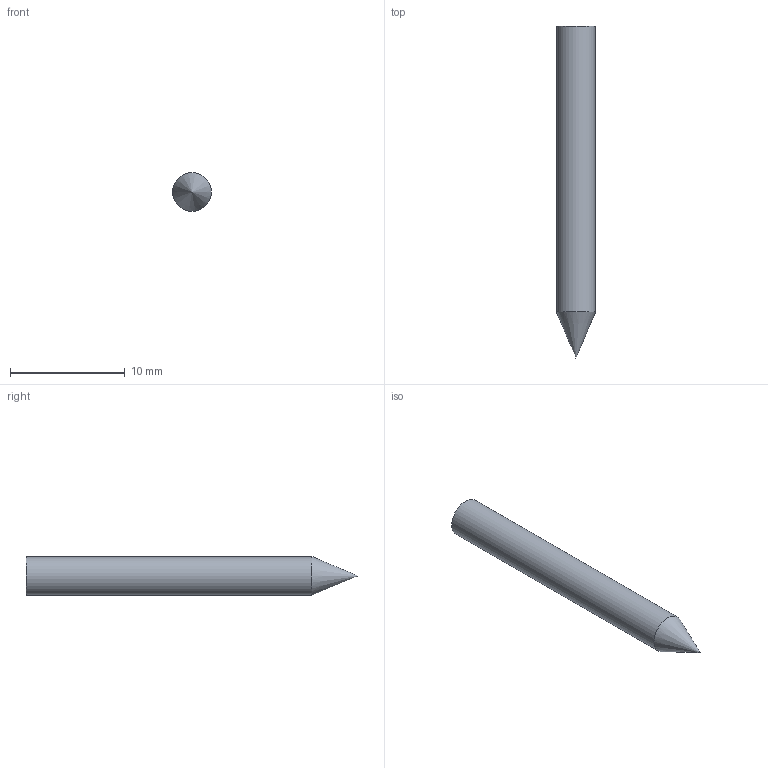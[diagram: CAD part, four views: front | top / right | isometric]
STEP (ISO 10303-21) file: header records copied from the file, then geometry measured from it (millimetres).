
FILE_DESCRIPTION(/* description */ (''),/* implementation_level */ '2;1');
FILE_NAME(/* name */ 'C:\Users\Diego\Downloads\9\Animalitos\ContraEje.stp',/* time_stamp */ '2019-07-10T16:13:37-04:00',/* author */ ('Diego'),/* organization */ (''),/* preprocessor_version */ 'ST-DEVELOPER v16.5',/* originating_system */ 'Autodesk Inventor 2017',/* authorisation */ '');
FILE_SCHEMA (('AUTOMOTIVE_DESIGN { 1 0 10303 214 3 1 1 }'));
Length unit declared in the file: millimetre
Products named in the file (1): ContraEje
Bounding box: 3.4 x 28.96 x 3.4 mm (x, y, z)
Volume: 238.7 mm3; surface area: 298.9 mm2
Topology: 1 solids, 1 shells, 3 faces, 5 edges, 3 vertices
Faces by surface type: plane 1, cone 1, cylinder 1
Full cylindrical faces by diameter (mm): 3.4 x1
Entity records: 78 total; most frequent: DIRECTION 12, CARTESIAN_POINT 8, AXIS2_PLACEMENT_3D 6, EDGE_LOOP 4, ORIENTED_EDGE 4, FACE_OUTER_BOUND 3, ADVANCED_FACE 3, CIRCLE 2
